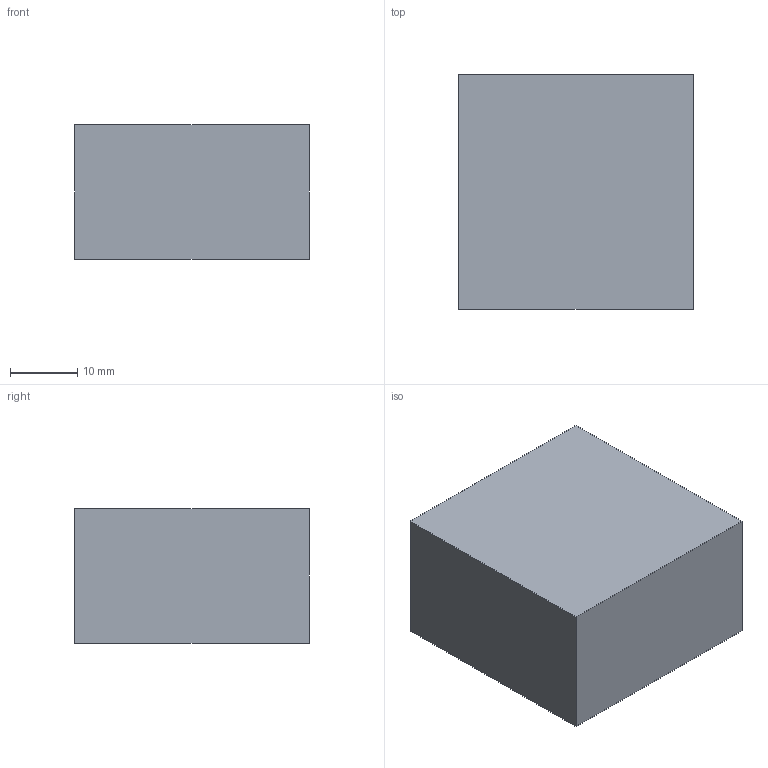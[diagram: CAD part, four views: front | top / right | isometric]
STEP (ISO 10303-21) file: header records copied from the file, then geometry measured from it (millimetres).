
FILE_DESCRIPTION (( 'STEP AP203' ), '1' );
FILE_NAME ('FT15ES06.STEP', '2026-06-26T01:09:49', ( 'USER' ), ( '' ), 'SwSTEP 2.0', 'SolidWorks 2023', '' );
FILE_SCHEMA (( 'CONFIG_CONTROL_DESIGN' ));
Length unit declared in the file: millimetre
Products named in the file (1): FT15ES06
Bounding box: 35 x 35 x 20 mm (x, y, z)
Volume: 18334.5 mm3; surface area: 6912.4 mm2
Topology: 1 solids, 1 shells, 32 faces, 64 edges, 40 vertices
Faces by surface type: cylinder 12, plane 12, cone 8
Entity records: 913 total; most frequent: DIRECTION 162, CARTESIAN_POINT 137, ORIENTED_EDGE 128, AXIS2_PLACEMENT_3D 65, EDGE_CURVE 64, VERTEX_POINT 40, EDGE_LOOP 38, ADVANCED_FACE 32
